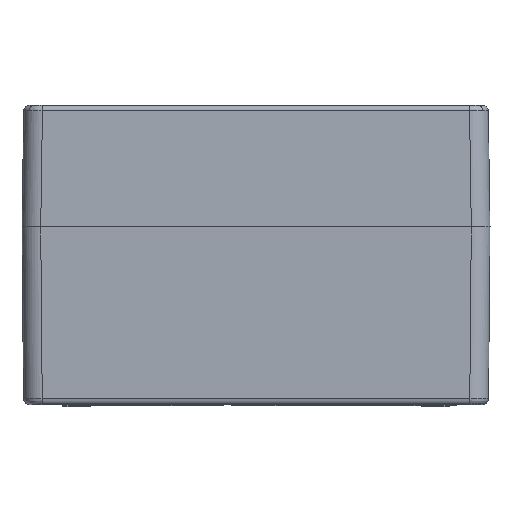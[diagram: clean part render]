
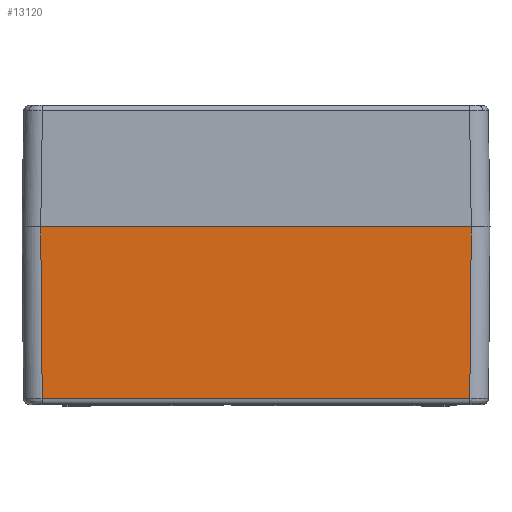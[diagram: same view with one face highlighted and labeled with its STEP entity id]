
A CAD part, left-side view. The second image highlights one B-rep face of the part: STEP entity #13120.
In plain terms, the highlighted planar face has unit normal (-1, 0, -0.009).
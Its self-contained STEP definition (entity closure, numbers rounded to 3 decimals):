
#6 = CARTESIAN_POINT ( 'NONE',  ( -199.201, 125., -91.531 ) ) ;
#203 = LINE ( 'NONE', #19813, #7080 ) ;
#1549 = DIRECTION ( 'NONE',  ( -0.009, 0., 1. ) ) ;
#3778 = VERTEX_POINT ( 'NONE', #20277 ) ;
#3879 = LINE ( 'NONE', #14305, #19500 ) ;
#5798 = DIRECTION ( 'NONE',  ( 0., 1., 0. ) ) ;
#6148 = ORIENTED_EDGE ( 'NONE', *, *, #29917, .T. ) ;
#7080 = VECTOR ( 'NONE', #31813, 1000. ) ;
#7324 = CARTESIAN_POINT ( 'NONE',  ( -199.201, -114.202, -91.531 ) ) ;
#7983 = CARTESIAN_POINT ( 'NONE',  ( -200., -125., 0. ) ) ;
#9419 = EDGE_CURVE ( 'NONE', #3778, #26822, #203, .T. ) ;
#11288 = EDGE_CURVE ( 'NONE', #24776, #20818, #22631, .T. ) ;
#11406 = EDGE_CURVE ( 'NONE', #20818, #26822, #23966, .T. ) ;
#11461 = AXIS2_PLACEMENT_3D ( 'NONE', #7983, #19377, #1549 ) ;
#13120 = ADVANCED_FACE ( 'NONE', ( #25751 ), #16194, .T. ) ;
#14305 = CARTESIAN_POINT ( 'NONE',  ( -199.201, -114.202, -91.531 ) ) ;
#14563 = DIRECTION ( 'NONE',  ( -0.009, -0.009, 1. ) ) ;
#14833 = ORIENTED_EDGE ( 'NONE', *, *, #9419, .T. ) ;
#15968 = ORIENTED_EDGE ( 'NONE', *, *, #11288, .F. ) ;
#16194 = PLANE ( 'NONE',  #11461 ) ;
#18694 = CARTESIAN_POINT ( 'NONE',  ( -199.982, 114.982, -2.094 ) ) ;
#19377 = DIRECTION ( 'NONE',  ( -1., 0., -0.009 ) ) ;
#19500 = VECTOR ( 'NONE', #14563, 1000. ) ;
#19813 = CARTESIAN_POINT ( 'NONE',  ( -200., -125., 0. ) ) ;
#20277 = CARTESIAN_POINT ( 'NONE',  ( -200., -115., 0. ) ) ;
#20818 = VERTEX_POINT ( 'NONE', #29228 ) ;
#22631 = LINE ( 'NONE', #6, #33624 ) ;
#23398 = CARTESIAN_POINT ( 'NONE',  ( -200., 115., 0. ) ) ;
#23966 = LINE ( 'NONE', #18694, #36439 ) ;
#24776 = VERTEX_POINT ( 'NONE', #7324 ) ;
#25751 = FACE_OUTER_BOUND ( 'NONE', #31989, .T. ) ;
#26822 = VERTEX_POINT ( 'NONE', #23398 ) ;
#28713 = ORIENTED_EDGE ( 'NONE', *, *, #11406, .F. ) ;
#29228 = CARTESIAN_POINT ( 'NONE',  ( -199.201, 114.202, -91.531 ) ) ;
#29917 = EDGE_CURVE ( 'NONE', #24776, #3778, #3879, .T. ) ;
#31813 = DIRECTION ( 'NONE',  ( 0., 1., 0. ) ) ;
#31989 = EDGE_LOOP ( 'NONE', ( #6148, #14833, #28713, #15968 ) ) ;
#33624 = VECTOR ( 'NONE', #5798, 1000. ) ;
#36439 = VECTOR ( 'NONE', #36725, 1000. ) ;
#36725 = DIRECTION ( 'NONE',  ( -0.009, 0.009, 1. ) ) ;
